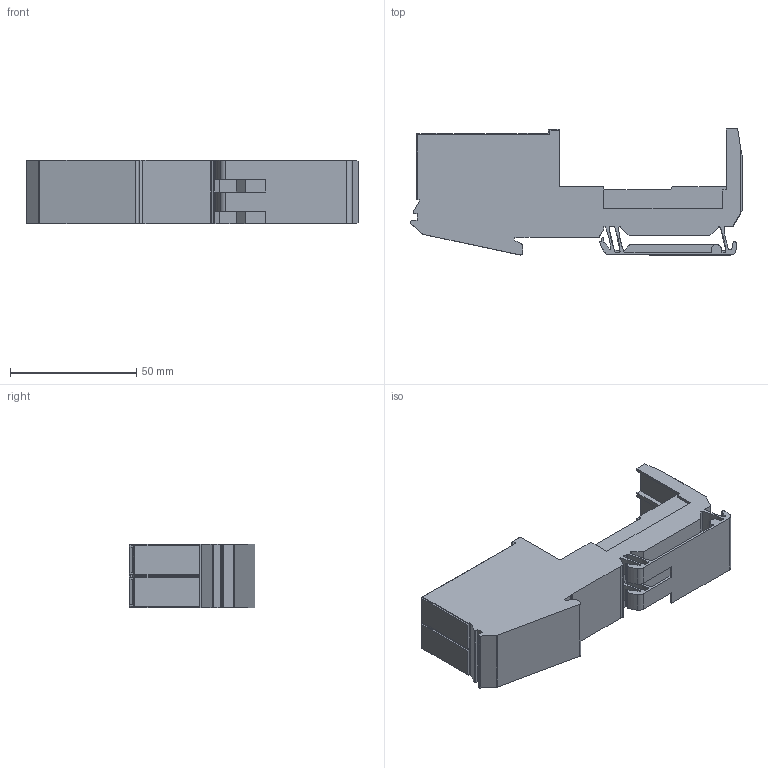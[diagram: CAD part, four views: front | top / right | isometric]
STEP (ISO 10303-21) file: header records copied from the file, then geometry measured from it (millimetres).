
FILE_DESCRIPTION((''),'2;1');
FILE_NAME('2007460','2010-06-25T',('smayer'),(''),'PRO/ENGINEER BY PARAMETRIC TECHNOLOGY CORPORATION, 2009380','PRO/ENGINEER BY PARAMETRIC TECHNOLOGY CORPORATION, 2009380','');
FILE_SCHEMA(('AUTOMOTIVE_DESIGN_CC2 { 1 2 10303 214 -1 1 5 2 }'));
Length unit declared in the file: millimetre
Products named in the file (1): 2007460
Bounding box: 131.44 x 49.85 x 25.2 mm (x, y, z)
Volume: 96286.8 mm3; surface area: 24424.8 mm2
Topology: 1 solids, 3 shells, 1033 faces, 3007 edges, 1974 vertices
Faces by surface type: plane 655, cone 174, cylinder 132, bspline 68, torus 4
Entity records: 48996 total; most frequent: CARTESIAN_POINT 12985, ORIENTED_EDGE 5998, DIRECTION 5153, PRESENTATION_STYLE_ASSIGNMENT 3000, STYLED_ITEM 3000, CURVE_STYLE 2999, EDGE_CURVE 2999, VECTOR 2007
